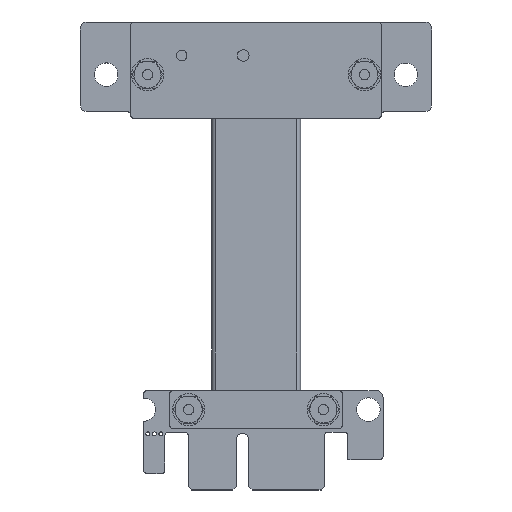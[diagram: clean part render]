
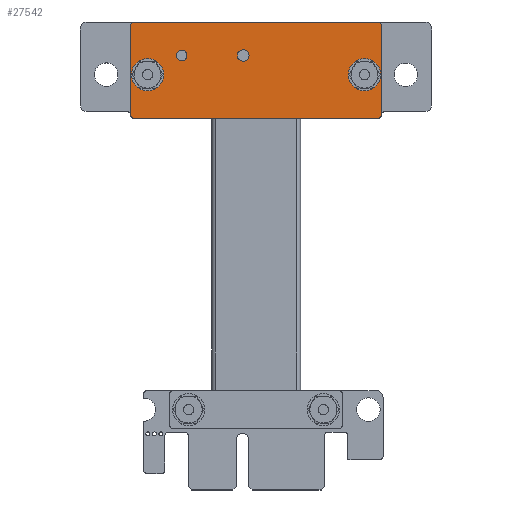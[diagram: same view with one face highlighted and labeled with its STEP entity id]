
A CAD part, top view. The second image highlights one B-rep face of the part: STEP entity #27542.
In plain terms, the highlighted planar face has unit normal (0, 0, 1) as drawn and (0, -1, 0) by its records, which use the part's own axes.
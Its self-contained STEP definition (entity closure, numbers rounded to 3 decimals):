
#27542 = ADVANCED_FACE('',(#27543,#27554,#27565),#27635,.F.);
#27543 = FACE_BOUND('',#27544,.T.);
#27544 = EDGE_LOOP('',(#27545));
#27545 = ORIENTED_EDGE('',*,*,#27546,.F.);
#27546 = EDGE_CURVE('',#27547,#27547,#27549,.T.);
#27547 = VERTEX_POINT('',#27548);
#27548 = CARTESIAN_POINT('',(-2.5,0.,5.38));
#27549 = CIRCLE('',#27550,2.4);
#27550 = AXIS2_PLACEMENT_3D('',#27551,#27552,#27553);
#27551 = CARTESIAN_POINT('',(-2.5,0.,7.78));
#27552 = DIRECTION('',(0.,-1.,0.));
#27553 = DIRECTION('',(0.,0.,-1.));
#27554 = FACE_BOUND('',#27555,.T.);
#27555 = EDGE_LOOP('',(#27556));
#27556 = ORIENTED_EDGE('',*,*,#27557,.F.);
#27557 = EDGE_CURVE('',#27558,#27558,#27560,.T.);
#27558 = VERTEX_POINT('',#27559);
#27559 = CARTESIAN_POINT('',(-34.7,0.,5.38));
#27560 = CIRCLE('',#27561,2.4);
#27561 = AXIS2_PLACEMENT_3D('',#27562,#27563,#27564);
#27562 = CARTESIAN_POINT('',(-34.7,0.,7.78));
#27563 = DIRECTION('',(0.,-1.,0.));
#27564 = DIRECTION('',(0.,0.,-1.));
#27565 = FACE_BOUND('',#27566,.T.);
#27566 = EDGE_LOOP('',(#27567,#27577,#27586,#27594,#27603,#27611,#27620,
    #27628));
#27567 = ORIENTED_EDGE('',*,*,#27568,.F.);
#27568 = EDGE_CURVE('',#27569,#27571,#27573,.T.);
#27569 = VERTEX_POINT('',#27570);
#27570 = CARTESIAN_POINT('',(-36.7,0.,14.23));
#27571 = VERTEX_POINT('',#27572);
#27572 = CARTESIAN_POINT('',(-0.5,0.,14.23));
#27573 = LINE('',#27574,#27575);
#27574 = CARTESIAN_POINT('',(-37.2,0.,14.23));
#27575 = VECTOR('',#27576,1.);
#27576 = DIRECTION('',(1.,0.,0.));
#27577 = ORIENTED_EDGE('',*,*,#27578,.T.);
#27578 = EDGE_CURVE('',#27569,#27579,#27581,.T.);
#27579 = VERTEX_POINT('',#27580);
#27580 = CARTESIAN_POINT('',(-37.2,0.,13.73));
#27581 = CIRCLE('',#27582,0.5);
#27582 = AXIS2_PLACEMENT_3D('',#27583,#27584,#27585);
#27583 = CARTESIAN_POINT('',(-36.7,0.,13.73));
#27584 = DIRECTION('',(0.,-1.,0.));
#27585 = DIRECTION('',(0.,0.,1.));
#27586 = ORIENTED_EDGE('',*,*,#27587,.F.);
#27587 = EDGE_CURVE('',#27588,#27579,#27590,.T.);
#27588 = VERTEX_POINT('',#27589);
#27589 = CARTESIAN_POINT('',(-37.2,0.,0.5));
#27590 = LINE('',#27591,#27592);
#27591 = CARTESIAN_POINT('',(-37.2,0.,0.));
#27592 = VECTOR('',#27593,1.);
#27593 = DIRECTION('',(0.,0.,1.));
#27594 = ORIENTED_EDGE('',*,*,#27595,.T.);
#27595 = EDGE_CURVE('',#27588,#27596,#27598,.T.);
#27596 = VERTEX_POINT('',#27597);
#27597 = CARTESIAN_POINT('',(-36.7,0.,0.));
#27598 = CIRCLE('',#27599,0.5);
#27599 = AXIS2_PLACEMENT_3D('',#27600,#27601,#27602);
#27600 = CARTESIAN_POINT('',(-36.7,0.,0.5));
#27601 = DIRECTION('',(0.,-1.,0.));
#27602 = DIRECTION('',(0.,0.,1.));
#27603 = ORIENTED_EDGE('',*,*,#27604,.F.);
#27604 = EDGE_CURVE('',#27605,#27596,#27607,.T.);
#27605 = VERTEX_POINT('',#27606);
#27606 = CARTESIAN_POINT('',(-0.5,0.,0.));
#27607 = LINE('',#27608,#27609);
#27608 = CARTESIAN_POINT('',(0.,0.,0.));
#27609 = VECTOR('',#27610,1.);
#27610 = DIRECTION('',(-1.,0.,0.));
#27611 = ORIENTED_EDGE('',*,*,#27612,.T.);
#27612 = EDGE_CURVE('',#27605,#27613,#27615,.T.);
#27613 = VERTEX_POINT('',#27614);
#27614 = CARTESIAN_POINT('',(0.,0.,0.5));
#27615 = CIRCLE('',#27616,0.5);
#27616 = AXIS2_PLACEMENT_3D('',#27617,#27618,#27619);
#27617 = CARTESIAN_POINT('',(-0.5,0.,0.5));
#27618 = DIRECTION('',(0.,-1.,0.));
#27619 = DIRECTION('',(0.,0.,1.));
#27620 = ORIENTED_EDGE('',*,*,#27621,.F.);
#27621 = EDGE_CURVE('',#27622,#27613,#27624,.T.);
#27622 = VERTEX_POINT('',#27623);
#27623 = CARTESIAN_POINT('',(0.,0.,13.73));
#27624 = LINE('',#27625,#27626);
#27625 = CARTESIAN_POINT('',(0.,0.,14.23));
#27626 = VECTOR('',#27627,1.);
#27627 = DIRECTION('',(0.,0.,-1.));
#27628 = ORIENTED_EDGE('',*,*,#27629,.T.);
#27629 = EDGE_CURVE('',#27622,#27571,#27630,.T.);
#27630 = CIRCLE('',#27631,0.5);
#27631 = AXIS2_PLACEMENT_3D('',#27632,#27633,#27634);
#27632 = CARTESIAN_POINT('',(-0.5,0.,13.73));
#27633 = DIRECTION('',(0.,-1.,0.));
#27634 = DIRECTION('',(0.,0.,1.));
#27635 = PLANE('',#27636);
#27636 = AXIS2_PLACEMENT_3D('',#27637,#27638,#27639);
#27637 = CARTESIAN_POINT('',(0.,0.,0.));
#27638 = DIRECTION('',(0.,1.,0.));
#27639 = DIRECTION('',(0.,0.,1.));
